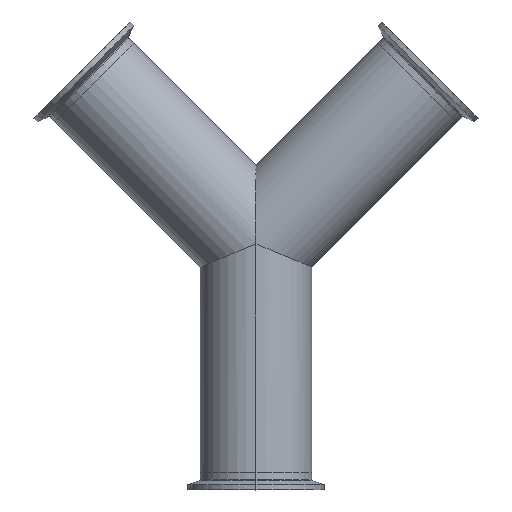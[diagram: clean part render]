
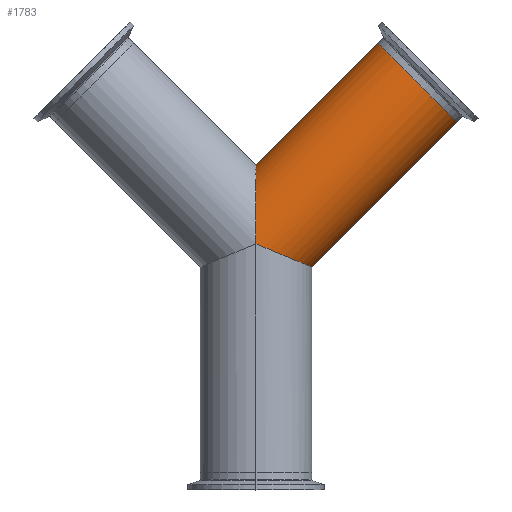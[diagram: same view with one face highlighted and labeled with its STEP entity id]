
A CAD part, top view. The second image highlights one B-rep face of the part: STEP entity #1783.
In plain terms, the highlighted cylindrical face has radius 31.75 mm (diameter 63.5 mm), a partial arc.
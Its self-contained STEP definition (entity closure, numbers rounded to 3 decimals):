
#122 = CARTESIAN_POINT ( 'NONE',  ( -85.951, -41.049, 0. ) ) ;
#134 = CARTESIAN_POINT ( 'NONE',  ( 0., 0., 31.75 ) ) ;
#188 = CARTESIAN_POINT ( 'NONE',  ( 31.75, -13.151, 0. ) ) ;
#243 = EDGE_CURVE ( 'NONE', #3948, #400, #3520, .T. ) ;
#400 = VERTEX_POINT ( 'NONE', #3467 ) ;
#507 =( BOUNDED_CURVE ( )  B_SPLINE_CURVE ( 3, ( #794, #1842, #1509, #4031 ),
 .UNSPECIFIED., .F., .T. ) 
 B_SPLINE_CURVE_WITH_KNOTS ( ( 4, 4 ),
 ( 0., 1.571 ),
 .UNSPECIFIED. ) 
 CURVE ( )  GEOMETRIC_REPRESENTATION_ITEM ( )  RATIONAL_B_SPLINE_CURVE ( ( 1., 0.805, 0.805, 1. ) ) 
 REPRESENTATION_ITEM ( '' )  );
#577 = AXIS2_PLACEMENT_3D ( 'NONE', #697, #3221, #3923 ) ;
#624 = EDGE_CURVE ( 'NONE', #3832, #1893, #3175, .T. ) ;
#645 = CYLINDRICAL_SURFACE ( 'NONE', #577, 31.75 ) ;
#668 = CARTESIAN_POINT ( 'NONE',  ( 91.712, 91.712, 0. ) ) ;
#697 = CARTESIAN_POINT ( 'NONE',  ( -63.5, -63.5, 0. ) ) ;
#794 = CARTESIAN_POINT ( 'NONE',  ( 0., 44.901, 0. ) ) ;
#878 = FACE_OUTER_BOUND ( 'NONE', #1256, .T. ) ;
#1026 = DIRECTION ( 'NONE',  ( -0.707, 0.707, 0. ) ) ;
#1136 = AXIS2_PLACEMENT_3D ( 'NONE', #668, #3193, #1026 ) ;
#1254 = DIRECTION ( 'NONE',  ( 0.707, 0.707, 0. ) ) ;
#1256 = EDGE_LOOP ( 'NONE', ( #4380, #3929, #3227, #2786, #2606 ) ) ;
#1259 = VECTOR ( 'NONE', #1891, 1000. ) ;
#1420 = CIRCLE ( 'NONE', #1136, 31.75 ) ;
#1509 = CARTESIAN_POINT ( 'NONE',  ( 0., 26.303, 31.75 ) ) ;
#1517 = EDGE_CURVE ( 'NONE', #3034, #1893, #1420, .T. ) ;
#1783 = ADVANCED_FACE ( 'NONE', ( #878 ), #645, .T. ) ;
#1842 = CARTESIAN_POINT ( 'NONE',  ( 0., 44.901, 18.599 ) ) ;
#1891 = DIRECTION ( 'NONE',  ( 0.707, 0.707, 0. ) ) ;
#1893 = VERTEX_POINT ( 'NONE', #2561 ) ;
#2221 = LINE ( 'NONE', #3408, #4228 ) ;
#2361 = CARTESIAN_POINT ( 'NONE',  ( 18.599, -7.704, 31.75 ) ) ;
#2561 = CARTESIAN_POINT ( 'NONE',  ( 69.261, 114.162, 0. ) ) ;
#2606 = ORIENTED_EDGE ( 'NONE', *, *, #3017, .T. ) ;
#2688 = CARTESIAN_POINT ( 'NONE',  ( 31.75, -13.151, 0. ) ) ;
#2696 = CARTESIAN_POINT ( 'NONE',  ( 31.75, -13.151, 18.599 ) ) ;
#2786 = ORIENTED_EDGE ( 'NONE', *, *, #624, .F. ) ;
#2964 = CARTESIAN_POINT ( 'NONE',  ( 114.162, 69.261, 0. ) ) ;
#3017 = EDGE_CURVE ( 'NONE', #3832, #400, #507, .T. ) ;
#3034 = VERTEX_POINT ( 'NONE', #2964 ) ;
#3175 = LINE ( 'NONE', #122, #1259 ) ;
#3193 = DIRECTION ( 'NONE',  ( -0.707, -0.707, 0. ) ) ;
#3221 = DIRECTION ( 'NONE',  ( 0.707, 0.707, 0. ) ) ;
#3227 = ORIENTED_EDGE ( 'NONE', *, *, #1517, .T. ) ;
#3408 = CARTESIAN_POINT ( 'NONE',  ( -41.049, -85.951, 0. ) ) ;
#3467 = CARTESIAN_POINT ( 'NONE',  ( 0., 0., 31.75 ) ) ;
#3520 =( BOUNDED_CURVE ( )  B_SPLINE_CURVE ( 3, ( #188, #2696, #2361, #134 ),
 .UNSPECIFIED., .F., .F. ) 
 B_SPLINE_CURVE_WITH_KNOTS ( ( 4, 4 ),
 ( 3.142, 4.712 ),
 .UNSPECIFIED. ) 
 CURVE ( )  GEOMETRIC_REPRESENTATION_ITEM ( )  RATIONAL_B_SPLINE_CURVE ( ( 1., 0.805, 0.805, 1. ) ) 
 REPRESENTATION_ITEM ( '' )  );
#3832 = VERTEX_POINT ( 'NONE', #3915 ) ;
#3915 = CARTESIAN_POINT ( 'NONE',  ( 0., 44.901, 0. ) ) ;
#3923 = DIRECTION ( 'NONE',  ( -0.707, 0.707, 0. ) ) ;
#3929 = ORIENTED_EDGE ( 'NONE', *, *, #4302, .T. ) ;
#3948 = VERTEX_POINT ( 'NONE', #2688 ) ;
#4031 = CARTESIAN_POINT ( 'NONE',  ( 0., 0., 31.75 ) ) ;
#4228 = VECTOR ( 'NONE', #1254, 1000. ) ;
#4302 = EDGE_CURVE ( 'NONE', #3948, #3034, #2221, .T. ) ;
#4380 = ORIENTED_EDGE ( 'NONE', *, *, #243, .F. ) ;
